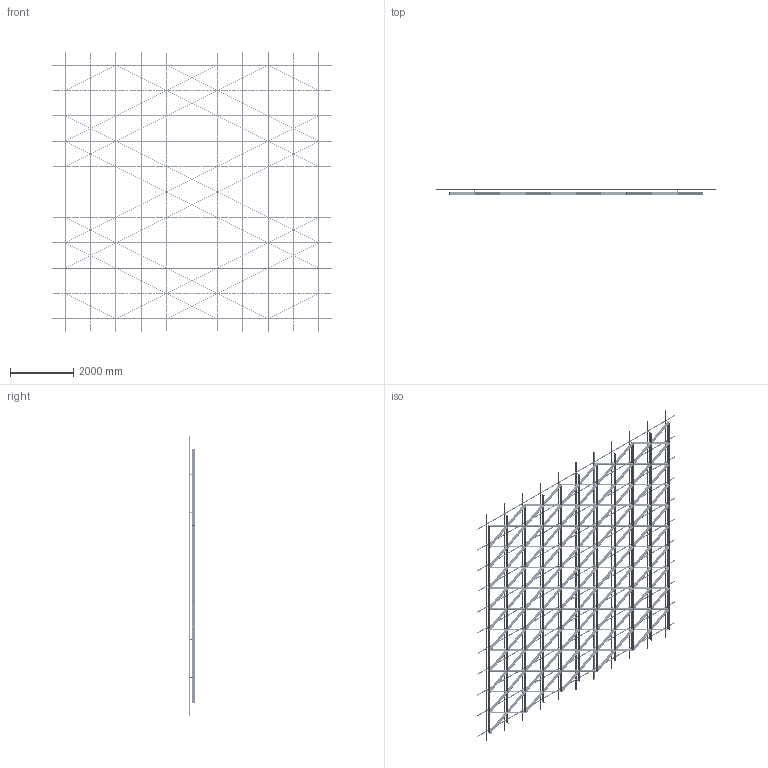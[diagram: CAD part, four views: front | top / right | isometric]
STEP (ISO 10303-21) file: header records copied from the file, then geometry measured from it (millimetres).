
FILE_DESCRIPTION (( 'STEP AP203' ), '1' );
FILE_NAME ('7 ìèäè ñ ïñ.step', '2025-11-26T11:33:03', ( '' ), ( '' ), 'SwSTEP 2.0', 'SolidWorks 2020', '' );
FILE_SCHEMA (( 'CONFIG_CONTROL_DESIGN' ));
Length unit declared in the file: millimetre
Products named in the file (5): SS.SEMA.2400 - Ñèìà-ïðîôèëü — îáðåçàí 1600; 7 ìèäè ñ ïñ; SS.SEMA.2400 - Ñèìà-ïðîôèëü; Ñèñòåìà â çîíå 8000õ8000; Var7
Assembly tree (90 placements, depth 3):
  7 ìèäè ñ ïñ
    Ñèñòåìà â çîíå 8000õ8000
      SS.SEMA.2400 - Ñèìà-ïðîôèëü  x66
      SS.SEMA.2400 - Ñèìà-ïðîôèëü — îáðåçàí 1600  x22
    Var7
Bounding box: 8800 x 205 x 8800 mm (x, y, z)
Volume: 231224019.3 mm3; surface area: 85991633.9 mm2
Topology: 907 solids, 907 shells, 20406 faces, 54368 edges, 35776 vertices
Faces by surface type: cylinder 12866, plane 7540
Entity records: 106925 total; most frequent: CARTESIAN_POINT 27148, ORIENTED_EDGE 15584, DIRECTION 14198, EDGE_CURVE 7792, AXIS2_PLACEMENT_3D 6850, VERTEX_POINT 5184, B_SPLINE_CURVE_WITH_KNOTS 4788, EDGE_LOOP 4412
